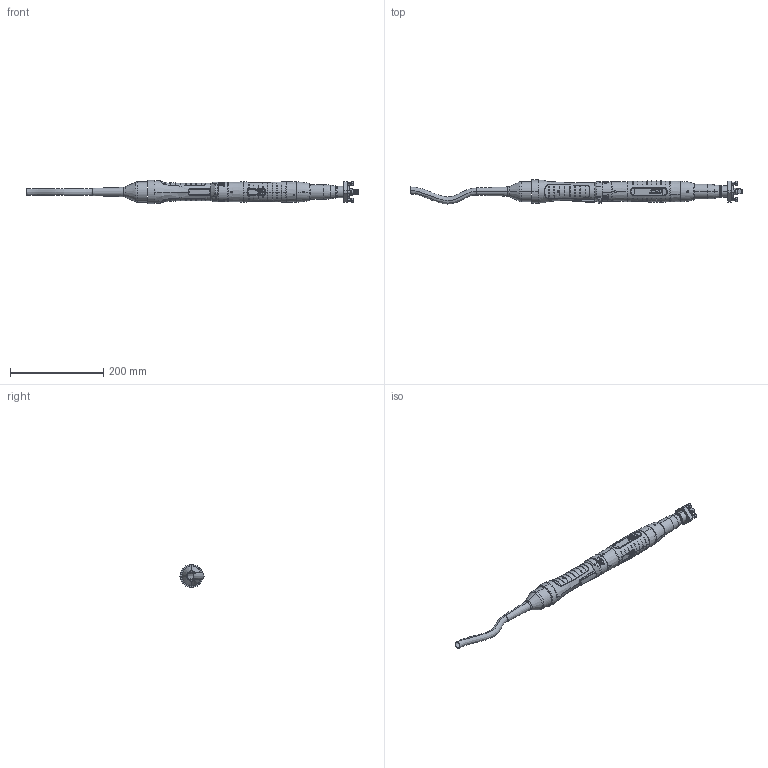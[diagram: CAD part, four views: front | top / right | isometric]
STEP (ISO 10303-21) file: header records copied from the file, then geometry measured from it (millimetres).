
FILE_DESCRIPTION (( 'STEP AP214' ), '1' );
FILE_NAME ('7900181_HCX1030ZV38.STEP', '2007-10-23T14:32:06', ( 'PC262' ), ( 'Alfing Montagetechnik GmbH' ), 'SwSTEP 2.0', 'SolidWorks 2007', '' );
FILE_SCHEMA (( 'AUTOMOTIVE_DESIGN' ));
Length unit declared in the file: millimetre
Products named in the file (1): 7900181_HCX1030ZV38
Bounding box: 712.78 x 51.57 x 49.8 mm (x, y, z)
Surface area: 94938.8 mm2 (no closed solid volume)
Topology: 0 solids, 46 shells, 1015 faces, 3487 edges, 2404 vertices
Faces by surface type: plane 279, torus 241, cylinder 217, bspline 206, cone 64, sphere 8
Entity records: 63967 total; most frequent: CARTESIAN_POINT 25883, ORIENTED_EDGE 5557, DIRECTION 5234, EDGE_CURVE 3468, VERTEX_POINT 2399, AXIS2_PLACEMENT_3D 2127, CIRCLE 1318, EDGE_LOOP 1129
